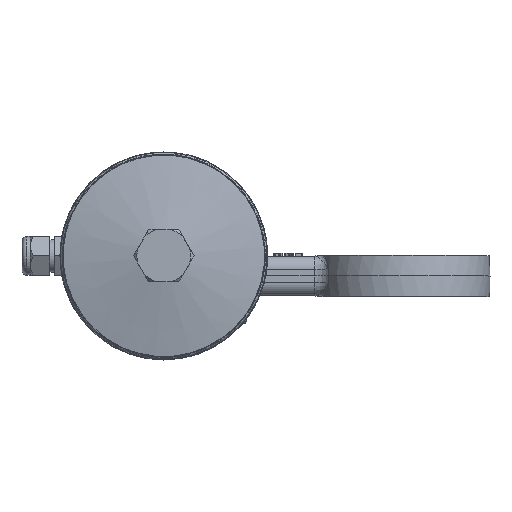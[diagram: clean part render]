
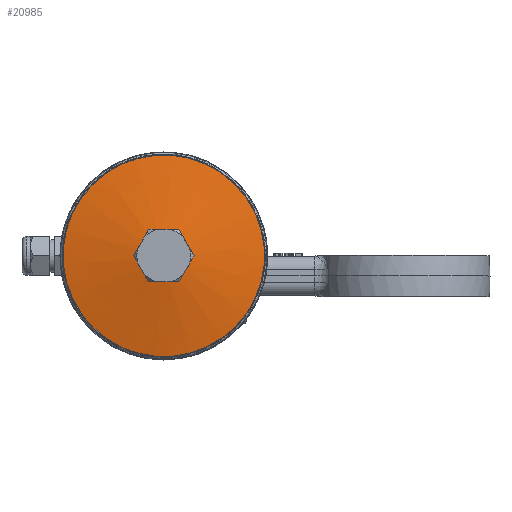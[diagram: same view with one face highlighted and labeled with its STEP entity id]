
A CAD part, top view. The second image highlights one B-rep face of the part: STEP entity #20985.
In plain terms, the highlighted conical face has half-angle 79.218 degrees and reference radius 38.398 mm.
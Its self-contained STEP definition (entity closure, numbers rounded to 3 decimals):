
#20958=CARTESIAN_POINT('',(0.,42.5,223.457));
#20959=DIRECTION('',(0.,0.,-1.0));
#20960=DIRECTION('',(0.822,-0.569,0.));
#20961=AXIS2_PLACEMENT_3D('',#20958,#20959,#20960);
#20962=CONICAL_SURFACE('',#20961,38.398,79.218);
#20963=CARTESIAN_POINT('',(12.482,33.852,227.878));
#20964=VERTEX_POINT('',#20963);
#20965=CARTESIAN_POINT('',(0.,42.5,227.878));
#20966=DIRECTION('',(0.,0.,1.0));
#20967=DIRECTION('',(0.822,-0.569,0.));
#20968=AXIS2_PLACEMENT_3D('',#20965,#20966,#20967);
#20969=CIRCLE('',#20968,15.185);
#20970=EDGE_CURVE('',#20964,#20964,#20969,.T.);
#20971=ORIENTED_EDGE('',*,*,#20970,.F.);
#20972=EDGE_LOOP('',(#20971));
#20973=FACE_OUTER_BOUND('',#20972,.T.);
#20974=CARTESIAN_POINT('',(50.643,7.413,219.037));
#20975=VERTEX_POINT('',#20974);
#20976=CARTESIAN_POINT('',(0.,42.5,219.037));
#20977=DIRECTION('',(0.,0.,1.0));
#20978=DIRECTION('',(0.822,-0.569,0.));
#20979=AXIS2_PLACEMENT_3D('',#20976,#20977,#20978);
#20980=CIRCLE('',#20979,61.61);
#20981=EDGE_CURVE('',#20975,#20975,#20980,.T.);
#20982=ORIENTED_EDGE('',*,*,#20981,.T.);
#20983=EDGE_LOOP('',(#20982));
#20984=FACE_BOUND('',#20983,.T.);
#20985=ADVANCED_FACE('',(#20973,#20984),#20962,.T.);
